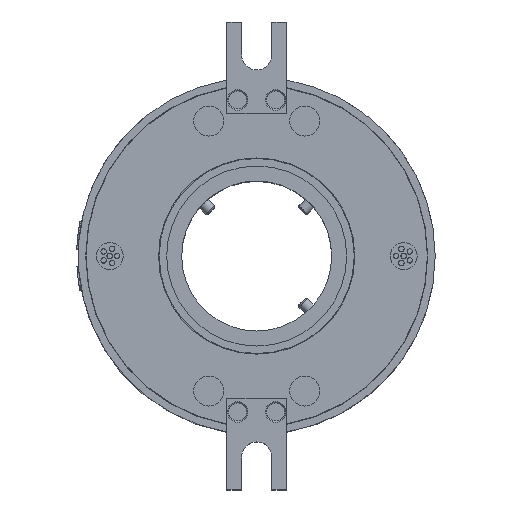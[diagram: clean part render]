
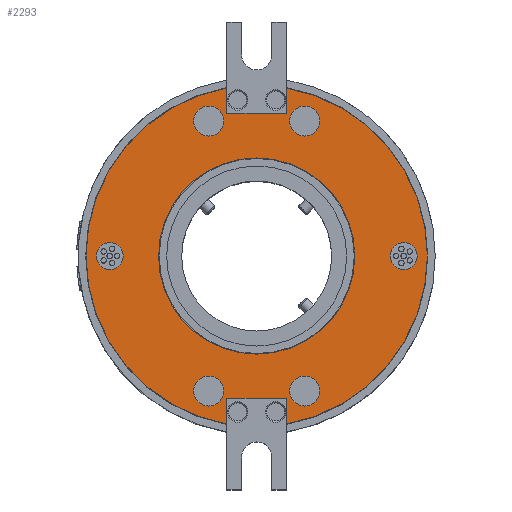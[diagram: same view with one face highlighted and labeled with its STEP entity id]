
A CAD part, top view. The second image highlights one B-rep face of the part: STEP entity #2293.
In plain terms, the highlighted planar face has unit normal (0, 0, 1).
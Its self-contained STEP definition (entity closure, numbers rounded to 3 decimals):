
#192=FACE_BOUND('',#4086,.T.);
#193=FACE_BOUND('',#4087,.T.);
#194=FACE_BOUND('',#4088,.T.);
#195=FACE_BOUND('',#4089,.T.);
#196=FACE_BOUND('',#4090,.T.);
#197=FACE_BOUND('',#4091,.T.);
#198=FACE_BOUND('',#4092,.T.);
#199=FACE_BOUND('',#4093,.T.);
#533=CIRCLE('',#13776,4.5);
#534=CIRCLE('',#13778,5.);
#535=CIRCLE('',#13779,5.);
#536=CIRCLE('',#13780,4.5);
#537=CIRCLE('',#13781,5.);
#538=CIRCLE('',#13782,5.);
#539=CIRCLE('',#13783,32.7);
#540=CIRCLE('',#13784,56.9);
#541=CIRCLE('',#13785,56.9);
#1110=LINE('',#25062,#1622);
#1111=LINE('',#25065,#1623);
#1112=LINE('',#25067,#1624);
#1113=LINE('',#25071,#1625);
#1114=LINE('',#25073,#1626);
#1115=LINE('',#25075,#1627);
#1622=VECTOR('',#15189,1.);
#1623=VECTOR('',#15190,1.);
#1624=VECTOR('',#15191,1.);
#1625=VECTOR('',#15194,1.);
#1626=VECTOR('',#15195,1.);
#1627=VECTOR('',#15196,1.);
#2293=ADVANCED_FACE('',(#192,#193,#194,#195,#196,#197,#198,#199),#2835,
 .T.);
#2835=PLANE('',#13786);
#4086=EDGE_LOOP('',(#6391));
#4087=EDGE_LOOP('',(#6392));
#4088=EDGE_LOOP('',(#6393));
#4089=EDGE_LOOP('',(#6394));
#4090=EDGE_LOOP('',(#6395));
#4091=EDGE_LOOP('',(#6396));
#4092=EDGE_LOOP('',(#6397,#6398,#6399,#6400,#6401,#6402,#6403,#6404));
#4093=EDGE_LOOP('',(#6405));
#6391=ORIENTED_EDGE('',*,*,#11145,.T.);
#6392=ORIENTED_EDGE('',*,*,#11146,.T.);
#6393=ORIENTED_EDGE('',*,*,#11147,.T.);
#6394=ORIENTED_EDGE('',*,*,#11148,.T.);
#6395=ORIENTED_EDGE('',*,*,#11149,.T.);
#6396=ORIENTED_EDGE('',*,*,#11150,.F.);
#6397=ORIENTED_EDGE('',*,*,#11151,.F.);
#6398=ORIENTED_EDGE('',*,*,#11152,.F.);
#6399=ORIENTED_EDGE('',*,*,#11153,.F.);
#6400=ORIENTED_EDGE('',*,*,#11154,.F.);
#6401=ORIENTED_EDGE('',*,*,#11155,.F.);
#6402=ORIENTED_EDGE('',*,*,#11156,.F.);
#6403=ORIENTED_EDGE('',*,*,#11157,.F.);
#6404=ORIENTED_EDGE('',*,*,#11158,.F.);
#6405=ORIENTED_EDGE('',*,*,#11144,.T.);
#9409=VERTEX_POINT('',#25048);
#9410=VERTEX_POINT('',#25051);
#9411=VERTEX_POINT('',#25053);
#9412=VERTEX_POINT('',#25055);
#9413=VERTEX_POINT('',#25057);
#9414=VERTEX_POINT('',#25059);
#9415=VERTEX_POINT('',#25061);
#9416=VERTEX_POINT('',#25063);
#9417=VERTEX_POINT('',#25064);
#9418=VERTEX_POINT('',#25066);
#9419=VERTEX_POINT('',#25068);
#9420=VERTEX_POINT('',#25070);
#9421=VERTEX_POINT('',#25072);
#9422=VERTEX_POINT('',#25074);
#9423=VERTEX_POINT('',#25076);
#11144=EDGE_CURVE('',#9409,#9409,#533,.T.);
#11145=EDGE_CURVE('',#9410,#9410,#534,.T.);
#11146=EDGE_CURVE('',#9411,#9411,#535,.T.);
#11147=EDGE_CURVE('',#9412,#9412,#536,.T.);
#11148=EDGE_CURVE('',#9413,#9413,#537,.T.);
#11149=EDGE_CURVE('',#9414,#9414,#538,.T.);
#11150=EDGE_CURVE('',#9415,#9415,#539,.T.);
#11151=EDGE_CURVE('',#9416,#9417,#1110,.T.);
#11152=EDGE_CURVE('',#9418,#9416,#1111,.T.);
#11153=EDGE_CURVE('',#9419,#9418,#1112,.T.);
#11154=EDGE_CURVE('',#9420,#9419,#540,.T.);
#11155=EDGE_CURVE('',#9421,#9420,#1113,.T.);
#11156=EDGE_CURVE('',#9422,#9421,#1114,.T.);
#11157=EDGE_CURVE('',#9423,#9422,#1115,.T.);
#11158=EDGE_CURVE('',#9417,#9423,#541,.T.);
#13776=AXIS2_PLACEMENT_3D('',#25047,#15173,#15174);
#13778=AXIS2_PLACEMENT_3D('',#25050,#15177,#15178);
#13779=AXIS2_PLACEMENT_3D('',#25052,#15179,#15180);
#13780=AXIS2_PLACEMENT_3D('',#25054,#15181,#15182);
#13781=AXIS2_PLACEMENT_3D('',#25056,#15183,#15184);
#13782=AXIS2_PLACEMENT_3D('',#25058,#15185,#15186);
#13783=AXIS2_PLACEMENT_3D('',#25060,#15187,#15188);
#13784=AXIS2_PLACEMENT_3D('',#25069,#15192,#15193);
#13785=AXIS2_PLACEMENT_3D('',#25077,#15197,#15198);
#13786=AXIS2_PLACEMENT_3D('',#25078,#15199,#15200);
#15173=DIRECTION('',(0.,0.,-1.));
#15174=DIRECTION('',(-1.,0.,0.));
#15177=DIRECTION('',(0.,0.,-1.));
#15178=DIRECTION('',(-1.,0.,0.));
#15179=DIRECTION('',(0.,0.,-1.));
#15180=DIRECTION('',(-1.,0.,0.));
#15181=DIRECTION('',(0.,0.,-1.));
#15182=DIRECTION('',(1.,0.,0.));
#15183=DIRECTION('',(0.,0.,-1.));
#15184=DIRECTION('',(1.,0.,0.));
#15185=DIRECTION('',(0.,0.,-1.));
#15186=DIRECTION('',(1.,0.,0.));
#15187=DIRECTION('',(0.,0.,1.));
#15188=DIRECTION('',(1.,0.,0.));
#15189=DIRECTION('',(0.,-1.,0.));
#15190=DIRECTION('',(-1.,0.,0.));
#15191=DIRECTION('',(0.,1.,0.));
#15192=DIRECTION('',(0.,0.,-1.));
#15193=DIRECTION('',(1.,0.,0.));
#15194=DIRECTION('',(0.,1.,0.));
#15195=DIRECTION('',(1.,0.,0.));
#15196=DIRECTION('',(0.,-1.,0.));
#15197=DIRECTION('',(0.,0.,-1.));
#15198=DIRECTION('',(1.,0.,0.));
#15199=DIRECTION('',(0.,0.,1.));
#15200=DIRECTION('',(1.,0.,0.));
#25047=CARTESIAN_POINT('',(49.,0.,85.7));
#25048=CARTESIAN_POINT('',(44.5,0.,85.7));
#25050=CARTESIAN_POINT('',(-16.,45.,85.7));
#25051=CARTESIAN_POINT('',(-21.,45.,85.7));
#25052=CARTESIAN_POINT('',(16.,45.,85.7));
#25053=CARTESIAN_POINT('',(11.,45.,85.7));
#25054=CARTESIAN_POINT('',(-49.,0.,85.7));
#25055=CARTESIAN_POINT('',(-44.5,0.,85.7));
#25056=CARTESIAN_POINT('',(-16.,-45.,85.7));
#25057=CARTESIAN_POINT('',(-11.,-45.,85.7));
#25058=CARTESIAN_POINT('',(16.,-45.,85.7));
#25059=CARTESIAN_POINT('',(21.,-45.,85.7));
#25060=CARTESIAN_POINT('',(0.,0.,85.7));
#25061=CARTESIAN_POINT('',(32.7,0.,85.7));
#25062=CARTESIAN_POINT('',(-10.,-62.75,85.7));
#25063=CARTESIAN_POINT('',(-10.,-47.5,85.7));
#25064=CARTESIAN_POINT('',(-10.,-56.014,85.7));
#25065=CARTESIAN_POINT('',(0.,-47.5,85.7));
#25066=CARTESIAN_POINT('',(10.,-47.5,85.7));
#25067=CARTESIAN_POINT('',(10.,-62.75,85.7));
#25068=CARTESIAN_POINT('',(10.,-56.014,85.7));
#25069=CARTESIAN_POINT('',(0.,0.,85.7));
#25070=CARTESIAN_POINT('',(10.,56.014,85.7));
#25071=CARTESIAN_POINT('',(10.,62.75,85.7));
#25072=CARTESIAN_POINT('',(10.,47.5,85.7));
#25073=CARTESIAN_POINT('',(0.,47.5,85.7));
#25074=CARTESIAN_POINT('',(-10.,47.5,85.7));
#25075=CARTESIAN_POINT('',(-10.,62.75,85.7));
#25076=CARTESIAN_POINT('',(-10.,56.014,85.7));
#25077=CARTESIAN_POINT('',(0.,0.,85.7));
#25078=CARTESIAN_POINT('',(0.,0.,85.7));
